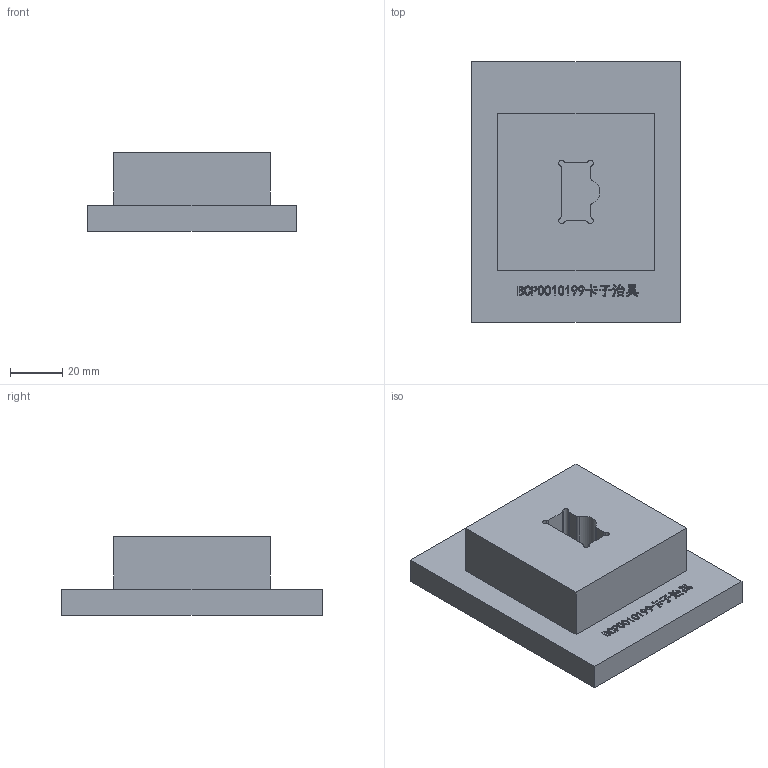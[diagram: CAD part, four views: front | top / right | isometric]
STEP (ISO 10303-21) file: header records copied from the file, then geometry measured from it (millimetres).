
FILE_DESCRIPTION(('CATIA V5 STEP Exchange'),'2;1');
FILE_NAME('C:\Users\liweiyong\Desktop\安陆普治具\腰脱\卡子治具\----yaotuo zuzhuang001.stp','2022-11-10T06:23:59+00:00',('none'),('none'),'CATIA Version 5 Release 20 GA (IN-10)','CATIA V5 STEP AP203','none');
FILE_SCHEMA(('CONFIG_CONTROL_DESIGN'));
Products named in the file (1): 卡子组装01
Assembly tree (2 placements, depth 2):
  卡子组装01
    #58
    #1161
Bounding box: 80 x 100 x 30 mm (x, y, z)
Volume: 144136.4 mm3; surface area: 33833.3 mm2
Topology: 2 solids, 2 shells, 2554 faces, 7524 edges, 5016 vertices
Faces by surface type: plane 2515, cylinder 39
Entity records: 82928 total; most frequent: ORIENTED_EDGE 15048, CARTESIAN_POINT 15017, DIRECTION 12478, EDGE_CURVE 7524, VECTOR 7446, LINE 7446, VERTEX_POINT 5016, EDGE_LOOP 2606
